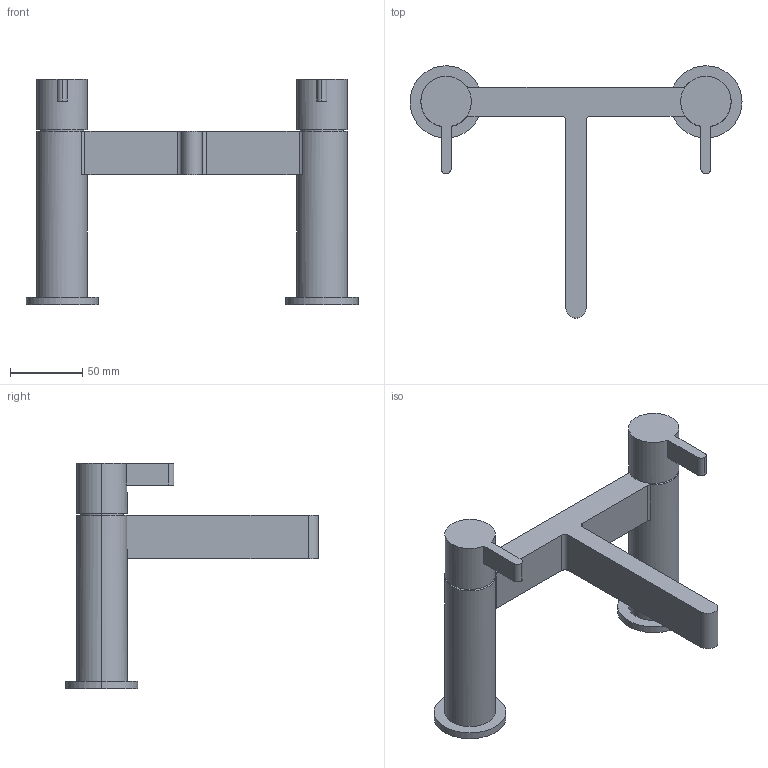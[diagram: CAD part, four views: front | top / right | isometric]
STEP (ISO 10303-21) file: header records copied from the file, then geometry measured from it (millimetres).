
FILE_DESCRIPTION(('FreeCAD Model'),'2;1');
FILE_NAME('Open CASCADE Shape Model','2024-08-16T17:37:52',('Author'),( ''),'Open CASCADE STEP processor 7.6','FreeCAD','Unknown');
FILE_SCHEMA(('AUTOMOTIVE_DESIGN { 1 0 10303 214 1 1 1 1 }'));
Length unit declared in the file: millimetre
Products named in the file (11): TopLevelAssembly; Wyciąganie003; Wyciąganie001; Wyciąganie002; Połączona geometria bryłowa003; Połączona geometria bryłowa; Połączona geometria bryłowa001; Połączona geometria bryłowa002; Wyciąganie010; Wyciąganie008; Wyciąganie009
Assembly tree (10 placements, depth 3):
  TopLevelAssembly
    Wyciąganie003
      Wyciąganie001
      Wyciąganie002
    Połączona geometria bryłowa003
      Połączona geometria bryłowa
      Połączona geometria bryłowa001
      Połączona geometria bryłowa002
    Wyciąganie010
      Wyciąganie008
      Wyciąganie009
Bounding box: 230 x 175 x 156 mm (x, y, z)
Volume: 468063.2 mm3; surface area: 82280.6 mm2
Topology: 7 solids, 7 shells, 54 faces, 120 edges, 80 vertices
Faces by surface type: plane 27, cylinder 27
Entity records: 1776 total; most frequent: DIRECTION 312, CARTESIAN_POINT 265, ORIENTED_EDGE 240, AXIS2_PLACEMENT_3D 127, EDGE_CURVE 120, VERTEX_POINT 80, CIRCLE 62, LINE 58
